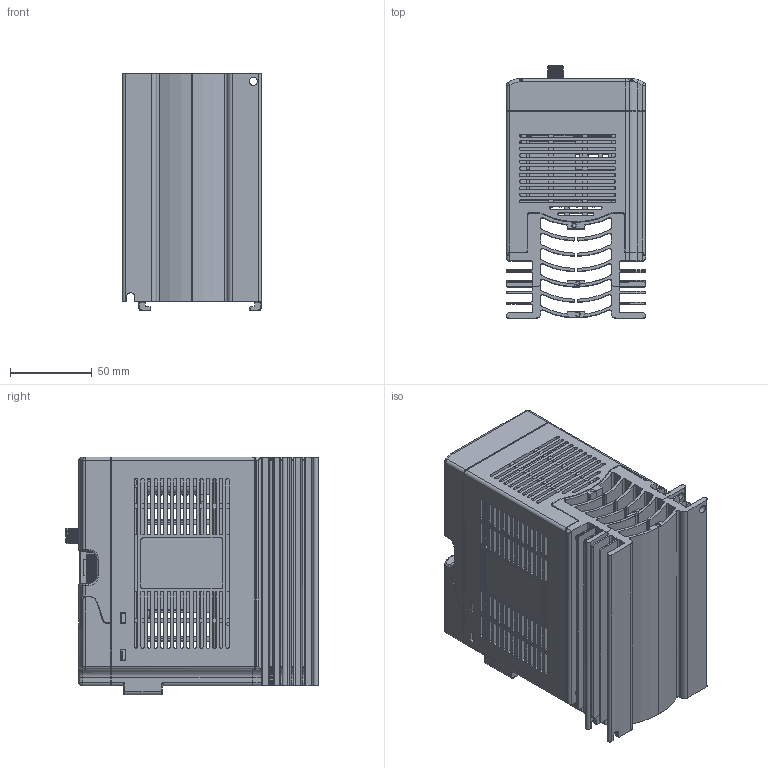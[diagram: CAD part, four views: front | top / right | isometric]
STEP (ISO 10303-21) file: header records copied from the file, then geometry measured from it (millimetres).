
FILE_DESCRIPTION((''),'2;1');
FILE_NAME('GD10-0R7-2_ASM','2019-11-18T',('Administrator'),(''),'PRO/ENGINEER BY PARAMETRIC TECHNOLOGY CORPORATION, 2010280','PRO/ENGINEER BY PARAMETRIC TECHNOLOGY CORPORATION, 2010280','');
FILE_SCHEMA(('CONFIG_CONTROL_DESIGN'));
Length unit declared in the file: millimetre
Products named in the file (24): 70610056; 70610121; 40830004_ASM; 70610058; 70610122; 40830005_ASM; GD10-0R7-DRIVER; 80740100; 80740061; 80740061SY1_ASM; 80740059; 80740059SY1_ASM; GD10-0R7G-2-FS_ASM; GD10-CONTRAL; GD10-CONTROL_TERMINAL_01; GD10-CONTROL_TERMINAL_02; GD10-CONTRAL_ASM; 80810010; 80710012; LD100-JP-PCB; 80740127; GD100-JP_ASM; 80740101; GD10-0R7-2_ASM
Assembly tree (26 placements, depth 3):
  GD10-0R7-2_ASM
    40830004_ASM
      70610056
      70610121
    40830005_ASM
      70610058
      70610122
    GD10-0R7-DRIVER
    80740100
    80740061SY1_ASM
      80740061
    80740059SY1_ASM
      80740059
    GD10-0R7G-2-FS_ASM
    GD10-CONTRAL_ASM
      GD10-CONTRAL
      GD10-CONTROL_TERMINAL_01  x4
      GD10-CONTROL_TERMINAL_02
    GD100-JP_ASM
      80810010
      80710012
      LD100-JP-PCB
      80740127
    80740101
Bounding box: 85.1 x 154.55 x 145.5 mm (x, y, z)
Volume: 677741.8 mm3; surface area: 555642.6 mm2
Topology: 19 solids, 19 shells, 5191 faces, 14605 edges, 9514 vertices
Faces by surface type: plane 3273, cylinder 1394, bspline 166, cone 150, torus 148, sphere 56, extrusion 4
Entity records: 178260 total; most frequent: CARTESIAN_POINT 44204, ORIENTED_EDGE 28802, DIRECTION 26625, EDGE_CURVE 14401, VECTOR 10361, LINE 10357, VERTEX_POINT 9382, AXIS2_PLACEMENT_3D 8132
